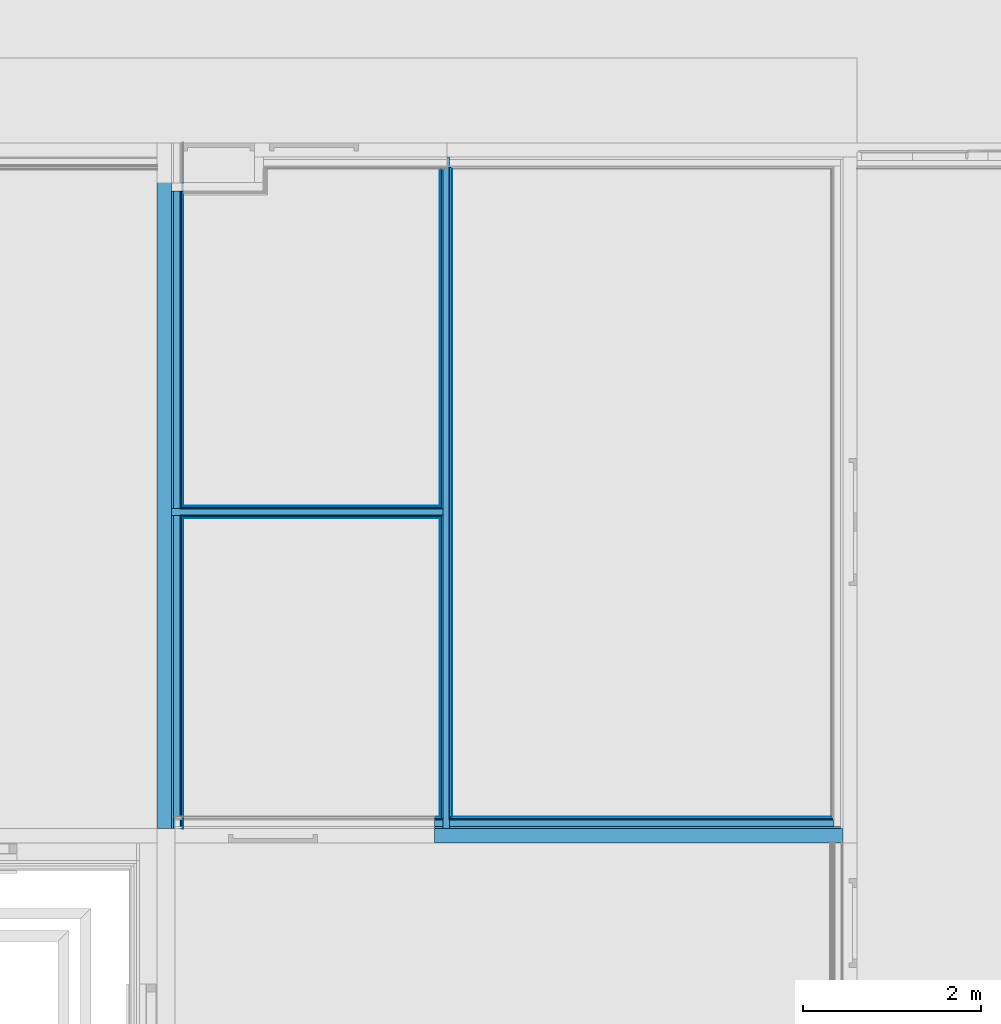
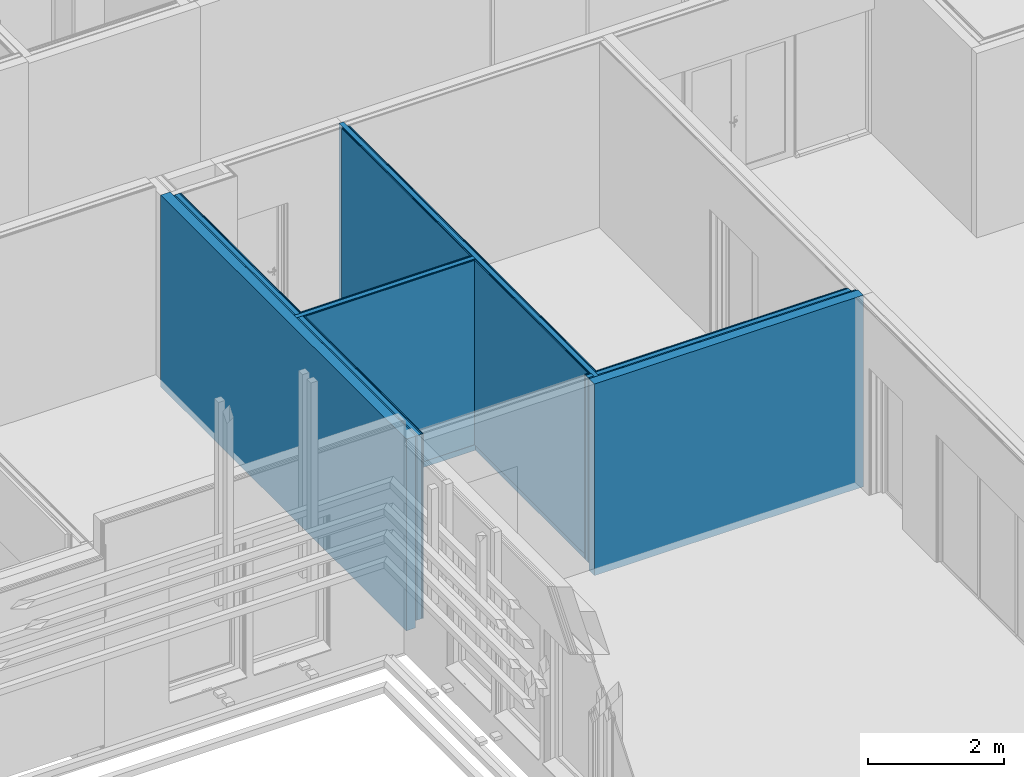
# One storey, part 87 of 139: 26 building element parts, 4 elements without a shape of their own.
"""IFC2X3 building model written with IfcOpenShell, lengths in millimetres."""

from ifc_helpers import new_model, entity, si_unit, converted_unit, derived_unit, money_unit, direction, frame, origin_with_axes, place, context, subcontext, project, spatial, faceted_brep, material, type_object, element, aggregate, save


model = new_model("IFC2X3")

# Units and contexts
model_context = context("Model", 3, precision=0.01, world=origin_with_axes(), true_north=direction((0.0, 1.0)))
body_context = subcontext(model_context, "Body", "Model", "MODEL_VIEW")
ifc_project = project(units=[si_unit("LENGTHUNIT", "METRE", prefix="MILLI"), si_unit("AREAUNIT", "SQUARE_METRE"), si_unit("VOLUMEUNIT", "CUBIC_METRE"), converted_unit("PLANEANGLEUNIT", "DEGREE", entity("IfcPlaneAngleMeasure", 0.0174532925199), si_unit("PLANEANGLEUNIT", "RADIAN"), dimensions=[0, 0, 0, 0, 0, 0, 0]), money_unit("EUR"), converted_unit("TIMEUNIT", "Year", entity("IfcTimeMeasure", 31556926.0), si_unit("TIMEUNIT", "SECOND"), dimensions=[0, 0, 1, 0, 0, 0, 0]), si_unit("MASSUNIT", "GRAM", prefix="KILO"), si_unit("THERMODYNAMICTEMPERATUREUNIT", "DEGREE_CELSIUS"), si_unit("LUMINOUSINTENSITYUNIT", "LUMEN"), si_unit("ENERGYUNIT", "JOULE", prefix="MEGA"), derived_unit("THERMALCONDUCTANCEUNIT", [(si_unit("POWERUNIT", "WATT"), 1), (si_unit("LENGTHUNIT", "METRE"), -1), (si_unit("THERMODYNAMICTEMPERATUREUNIT", "KELVIN"), -1)]), derived_unit("SPECIFICHEATCAPACITYUNIT", [(si_unit("ENERGYUNIT", "JOULE"), 1), (si_unit("MASSUNIT", "GRAM", prefix="KILO"), -1), (si_unit("THERMODYNAMICTEMPERATUREUNIT", "KELVIN"), -1)]), derived_unit("MASSDENSITYUNIT", [(si_unit("MASSUNIT", "GRAM", prefix="KILO"), 1), (si_unit("VOLUMEUNIT", "CUBIC_METRE"), -1)])], contexts=[model_context])

# Site, building, storey
site_placement = place(None, origin_with_axes())
site = spatial("IfcSite", under=ifc_project, at=site_placement, Name="Kolde pst 67a", CompositionType="ELEMENT")
building_placement = place(site_placement, origin_with_axes())
building = spatial("IfcBuilding", under=site, at=building_placement, Name="Riigigümnaasium", CompositionType="ELEMENT")
storey_placement = place(building_placement, frame((0.0, 0.0, 4600.0), z_axis=(0.0, 0.0, 1.0), x_axis=(1.0, 0.0, 0.0)))
storey = spatial("IfcBuildingStorey", under=building, at=storey_placement, Name="2. korrus", CompositionType="ELEMENT", Elevation=4600.0)

# Wall, building element parts
wall_type_1 = type_object("IfcWallType", Name="SS-MK-7,5/2_värvitud TTS sein 139", PredefinedType="NOTDEFINED")
wall_1_placement = place(storey_placement, frame((27350.0035815, 51680.0001843, -130.0), z_axis=(0.0, 0.0, 1.0), x_axis=(-1.0, 0.0, 0.0)))
wall_1 = element("IfcWall", 1, at=wall_1_placement, inside=storey, type_object=wall_type_1, Name="Sisesein")
ifc_material_1 = material(Name="_VIIMISTLUSKIHT - viimistlus vastavalt SA osale")
building_element_part_1_placement = place(wall_1_placement, origin_with_axes())
building_element_part_1 = element("IfcBuildingElementPart", 2, at=building_element_part_1_placement, material=ifc_material_1, Name="_VIIMISTLUSKIHT - viimistlus vastavalt SA osale", context=body_context, shape_type="Brep", body=[
    faceted_brep([(3018.00084737, -2.0, 3450.0), (139.0, -2.0, 3450.0), (139.0, -2.0, 130.0), (3018.00084737, -2.0, 130.0), (139.0, 0.0, 3450.0), (3018.00084737, 0.0, 3450.0), (139.0, 0.0, 130.0), (3018.00084737, 0.0, 130.0)], [[[0, 1, 2, 3]], [[4, 1, 0, 5]], [[1, 4, 6, 2]], [[3, 2, 6, 7]], [[5, 0, 3, 7]], [[4, 5, 7, 6]]]),
])
ifc_material_2 = material(Name="_PLAATMATERJAL - tuletõkkekipsplaat, Knauf Red GKF või samaväärne")
building_element_part_2_placement = place(wall_1_placement, origin_with_axes())
building_element_part_2 = element("IfcBuildingElementPart", 3, at=building_element_part_2_placement, material=ifc_material_2, Name="_PLAATMATERJAL - tuletõkkekipsplaat, Knauf Red GKF või samaväärne", context=body_context, shape_type="Brep", body=[
    faceted_brep([(3020.00084737, -17.0, 3450.0), (137.0, -17.0, 3450.0), (137.0, -17.0, 127.0), (3020.00084737, -17.0, 127.0), (137.0, -2.0, 3450.0), (3020.00084737, -2.0, 3450.0), (137.0, -2.0, 127.0), (3020.00084737, -2.0, 127.0)], [[[0, 1, 2, 3]], [[4, 1, 0, 5]], [[1, 4, 6, 2]], [[3, 2, 6, 7]], [[5, 0, 3, 7]], [[4, 5, 7, 6]]]),
])
building_element_part_3_placement = place(wall_1_placement, origin_with_axes())
building_element_part_3 = element("IfcBuildingElementPart", 4, at=building_element_part_3_placement, material=ifc_material_2, Name="_PLAATMATERJAL - tuletõkkekipsplaat, Knauf Red GKF või samaväärne", context=body_context, shape_type="Brep", body=[
    faceted_brep([(3035.00084737, -32.0, 3450.0), (122.0, -32.0, 3450.0), (122.0, -32.0, 127.0), (3035.00084737, -32.0, 127.0), (122.0, -17.0, 3450.0), (3035.00084737, -17.0, 3450.0), (122.0, -17.0, 127.0), (3035.00084737, -17.0, 127.0)], [[[0, 1, 2, 3]], [[4, 1, 0, 5]], [[1, 4, 6, 2]], [[3, 2, 6, 7]], [[5, 0, 3, 7]], [[4, 5, 7, 6]]]),
])
ifc_material_3 = material(Name="_KARKASS - metallkarkass CW 75/50, mineraalvill karkassi vahel")
building_element_part_4_placement = place(wall_1_placement, origin_with_axes())
building_element_part_4 = element("IfcBuildingElementPart", 5, at=building_element_part_4_placement, material=ifc_material_3, Name="_KARKASS - metallkarkass CW 75/50, mineraalvill karkassi vahel", context=body_context, shape_type="Brep", body=[
    faceted_brep([(3150.00084737, -107.0, 3450.0), (107.0, -107.0, 3450.0), (107.0, -107.0, 0.0), (3150.00084737, -107.0, 0.0), (107.0, -32.0, 3450.0), (3150.00084737, -32.0, 3450.0), (107.0, -32.0, 0.0), (3150.00084737, -32.0, 0.0)], [[[0, 1, 2, 3]], [[4, 1, 0, 5]], [[1, 4, 6, 2]], [[7, 3, 2, 6]], [[5, 0, 3, 7]], [[4, 5, 7, 6]]]),
])
building_element_part_5_placement = place(wall_1_placement, origin_with_axes())
building_element_part_5 = element("IfcBuildingElementPart", 6, at=building_element_part_5_placement, material=ifc_material_2, Name="_PLAATMATERJAL - tuletõkkekipsplaat, Knauf Red GKF või samaväärne", context=body_context, shape_type="Brep", body=[
    faceted_brep([(3035.00084737, -122.0, 3450.0), (122.0, -122.0, 3450.0), (122.0, -122.0, 127.0), (3035.00084737, -122.0, 127.0), (122.0, -107.0, 3450.0), (3035.00084737, -107.0, 3450.0), (122.0, -107.0, 127.0), (3035.00084737, -107.0, 127.0)], [[[0, 1, 2, 3]], [[4, 1, 0, 5]], [[1, 4, 6, 2]], [[3, 2, 6, 7]], [[5, 0, 3, 7]], [[4, 5, 7, 6]]]),
])
building_element_part_6_placement = place(wall_1_placement, origin_with_axes())
building_element_part_6 = element("IfcBuildingElementPart", 7, at=building_element_part_6_placement, material=ifc_material_2, Name="_PLAATMATERJAL - tuletõkkekipsplaat, Knauf Red GKF või samaväärne", context=body_context, shape_type="Brep", body=[
    faceted_brep([(3020.00084737, -137.0, 3450.0), (137.0, -137.0, 3450.0), (137.0, -137.0, 127.0), (3020.00084737, -137.0, 127.0), (137.0, -122.0, 3450.0), (3020.00084737, -122.0, 3450.0), (137.0, -122.0, 127.0), (3020.00084737, -122.0, 127.0)], [[[0, 1, 2, 3]], [[4, 1, 0, 5]], [[1, 4, 6, 2]], [[3, 2, 6, 7]], [[5, 0, 3, 7]], [[4, 5, 7, 6]]]),
])
building_element_part_7_placement = place(wall_1_placement, origin_with_axes())
building_element_part_7 = element("IfcBuildingElementPart", 8, at=building_element_part_7_placement, material=ifc_material_1, Name="_VIIMISTLUSKIHT - viimistlus vastavalt SA osale", context=body_context, shape_type="Brep", body=[
    faceted_brep([(3018.00084737, -139.0, 3450.0), (139.0, -139.0, 3450.0), (139.0, -139.0, 130.0), (3018.00084737, -139.0, 130.0), (139.0, -137.0, 3450.0), (3018.00084737, -137.0, 3450.0), (139.0, -137.0, 130.0), (3018.00084737, -137.0, 130.0)], [[[0, 1, 2, 3]], [[4, 1, 0, 5]], [[1, 4, 6, 2]], [[3, 2, 6, 7]], [[5, 0, 3, 7]], [[4, 5, 7, 6]]]),
])
aggregate(wall_1, [building_element_part_1, building_element_part_2, building_element_part_3, building_element_part_4, building_element_part_5, building_element_part_6, building_element_part_7])

wall_2_placement = place(storey_placement, frame((27350.0035815, 55889.973025, -130.0), z_axis=(0.0, 0.0, 1.0), x_axis=(0.0, -1.0, 0.0)))
wall_2 = element("IfcWall", 9, at=wall_2_placement, inside=storey, type_object=wall_type_1, Name="Sisesein")
building_element_part_8_placement = place(wall_2_placement, origin_with_axes())
building_element_part_8 = element("IfcBuildingElementPart", 10, at=building_element_part_8_placement, material=ifc_material_1, Name="_VIIMISTLUSKIHT - viimistlus vastavalt SA osale", context=body_context, shape_type="Brep", body=[
    faceted_brep([(291.999794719, -2.0, 3450.0), (291.999807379, 0.0, 3450.0), (291.999807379, 0.0, 130.0), (291.999794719, -2.0, 130.0), (7557.99219415, 0.0, 3450.0), (7557.99219415, -2.0, 3450.0), (7557.99219415, 0.0, 130.0), (7557.99219415, -2.0, 130.0)], [[[0, 1, 2, 3]], [[4, 1, 0, 5]], [[1, 4, 6, 2]], [[3, 2, 6, 7]], [[5, 0, 3, 7]], [[4, 5, 7, 6]]]),
])
building_element_part_9_placement = place(wall_2_placement, origin_with_axes())
building_element_part_9 = element("IfcBuildingElementPart", 11, at=building_element_part_9_placement, material=ifc_material_2, Name="_PLAATMATERJAL - tuletõkkekipsplaat, Knauf Red GKF või samaväärne", context=body_context, shape_type="Brep", body=[
    faceted_brep([(289.999699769, -17.0, 3450.0), (289.999794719, -2.0, 3450.0), (289.999794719, -2.0, 127.0), (289.999699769, -17.0, 127.0), (7559.99219415, -2.0, 3450.0), (7559.99219415, -17.0, 3450.0), (7559.99219415, -2.0, 127.0), (7559.99219415, -17.0, 127.0)], [[[0, 1, 2, 3]], [[4, 1, 0, 5]], [[1, 4, 6, 2]], [[3, 2, 6, 7]], [[5, 0, 3, 7]], [[4, 5, 7, 6]]]),
])
building_element_part_10_placement = place(wall_2_placement, origin_with_axes())
building_element_part_10 = element("IfcBuildingElementPart", 12, at=building_element_part_10_placement, material=ifc_material_2, Name="_PLAATMATERJAL - tuletõkkekipsplaat, Knauf Red GKF või samaväärne", context=body_context, shape_type="Brep", body=[
    faceted_brep([(274.999604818, -32.0, 3450.0), (274.999699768, -17.0, 3450.0), (274.999699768, -17.0, 127.0), (274.999604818, -32.0, 127.0), (7574.99219415, -17.0, 3450.0), (7574.99219415, -32.0, 3450.0), (7574.99219415, -17.0, 127.0), (7574.99219415, -32.0, 127.0)], [[[0, 1, 2, 3]], [[4, 1, 0, 5]], [[1, 4, 6, 2]], [[3, 2, 6, 7]], [[5, 0, 3, 7]], [[4, 5, 7, 6]]]),
])
building_element_part_11_placement = place(wall_2_placement, origin_with_axes())
building_element_part_11 = element("IfcBuildingElementPart", 13, at=building_element_part_11_placement, material=ifc_material_3, Name="_KARKASS - metallkarkass CW 75/50, mineraalvill karkassi vahel", context=body_context, shape_type="Brep", body=[
    faceted_brep([(159.999130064, -107.0, 3450.0), (159.999604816, -32.0, 3450.0), (159.999604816, -32.0, 0.0), (159.999130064, -107.0, 0.0), (7689.99219415, -32.0, 3450.0), (7689.99219415, -107.0, 3450.0), (7689.99219415, -32.0, 0.0), (7689.99219415, -107.0, 0.0)], [[[0, 1, 2, 3]], [[4, 1, 0, 5]], [[1, 4, 6, 2]], [[6, 7, 3, 2]], [[5, 0, 3, 7]], [[4, 5, 7, 6]]]),
])
building_element_part_12_placement = place(wall_2_placement, origin_with_axes())
building_element_part_12 = element("IfcBuildingElementPart", 14, at=building_element_part_12_placement, material=ifc_material_2, Name="_PLAATMATERJAL - tuletõkkekipsplaat, Knauf Red GKF või samaväärne", context=body_context, shape_type="Brep", body=[
    faceted_brep([(4177.97284061, -122.0, 3450.0), (4177.97284061, -107.0, 3450.0), (4177.97284061, -107.0, 127.0), (4177.97284061, -122.0, 127.0), (7574.99219415, -107.0, 3450.0), (7574.99219415, -122.0, 3450.0), (7574.99219415, -107.0, 127.0), (7574.99219415, -122.0, 127.0)], [[[0, 1, 2, 3]], [[4, 1, 0, 5]], [[1, 4, 6, 2]], [[3, 2, 6, 7]], [[5, 0, 3, 7]], [[4, 5, 7, 6]]]),
    faceted_brep([(274.999035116, -122.0, 3450.0), (274.999130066, -107.0, 3450.0), (274.999130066, -107.0, 127.0), (274.999035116, -122.0, 127.0), (4102.97284061, -107.0, 3450.0), (4102.97284061, -122.0, 3450.0), (4102.97284061, -107.0, 127.0), (4102.97284061, -122.0, 127.0)], [[[0, 1, 2, 3]], [[4, 1, 0, 5]], [[1, 4, 6, 2]], [[3, 2, 6, 7]], [[5, 0, 3, 7]], [[4, 5, 7, 6]]]),
])
building_element_part_13_placement = place(wall_2_placement, origin_with_axes())
building_element_part_13 = element("IfcBuildingElementPart", 15, at=building_element_part_13_placement, material=ifc_material_2, Name="_PLAATMATERJAL - tuletõkkekipsplaat, Knauf Red GKF või samaväärne", context=body_context, shape_type="Brep", body=[
    faceted_brep([(4192.97284061, -137.0, 3450.0), (4192.97284061, -122.0, 3450.0), (4192.97284061, -122.0, 127.0), (4192.97284061, -137.0, 127.0), (7559.99219415, -122.0, 3450.0), (7559.99219415, -137.0, 3450.0), (7559.99219415, -122.0, 127.0), (7559.99219415, -137.0, 127.0)], [[[0, 1, 2, 3]], [[4, 1, 0, 5]], [[1, 4, 6, 2]], [[3, 2, 6, 7]], [[5, 0, 3, 7]], [[4, 5, 7, 6]]]),
    faceted_brep([(289.998940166, -137.0, 3450.0), (289.999035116, -122.0, 3450.0), (289.999035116, -122.0, 127.0), (289.998940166, -137.0, 127.0), (4087.97284061, -122.0, 3450.0), (4087.97284061, -137.0, 3450.0), (4087.97284061, -122.0, 127.0), (4087.97284061, -137.0, 127.0)], [[[0, 1, 2, 3]], [[4, 1, 0, 5]], [[1, 4, 6, 2]], [[3, 2, 6, 7]], [[5, 0, 3, 7]], [[4, 5, 7, 6]]]),
])
building_element_part_14_placement = place(wall_2_placement, origin_with_axes())
building_element_part_14 = element("IfcBuildingElementPart", 16, at=building_element_part_14_placement, material=ifc_material_1, Name="_VIIMISTLUSKIHT - viimistlus vastavalt SA osale", context=body_context, shape_type="Brep", body=[
    faceted_brep([(4207.97284061, -139.0, 3450.0), (4207.97284061, -137.0, 3450.0), (4207.97284061, -137.0, 130.0), (4207.97284061, -139.0, 130.0), (7557.99219415, -137.0, 3450.0), (7557.99219415, -139.0, 3450.0), (7557.99219415, -137.0, 130.0), (7557.99219415, -139.0, 130.0)], [[[0, 1, 2, 3]], [[4, 1, 0, 5]], [[1, 4, 6, 2]], [[3, 2, 6, 7]], [[5, 0, 3, 7]], [[4, 5, 7, 6]]]),
    faceted_brep([(291.998927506, -139.0, 3450.0), (291.998940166, -137.0, 3450.0), (291.998940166, -137.0, 130.0), (291.998927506, -139.0, 130.0), (4072.97284061, -137.0, 3450.0), (4072.97284061, -139.0, 3450.0), (4072.97284061, -137.0, 130.0), (4072.97284061, -139.0, 130.0)], [[[0, 1, 2, 3]], [[4, 1, 0, 5]], [[1, 4, 6, 2]], [[3, 2, 6, 7]], [[5, 0, 3, 7]], [[4, 5, 7, 6]]]),
])
aggregate(wall_2, [building_element_part_8, building_element_part_9, building_element_part_10, building_element_part_11, building_element_part_12, building_element_part_13, building_element_part_14])

wall_type_2 = type_object("IfcWallType", Name="SS-CLT-16/5_vill75+värv 52 dB 292", PredefinedType="NOTDEFINED")
wall_3_placement = place(storey_placement, frame((27150.0035815, 48039.9808308, -150.0), z_axis=(0.0, 0.0, 1.0), x_axis=(1.0, 0.0, 0.0)))
wall_3 = element("IfcWall", 17, at=wall_3_placement, inside=storey, type_object=wall_type_2, Name="Sisesein")
building_element_part_15_placement = place(wall_3_placement, origin_with_axes())
building_element_part_15 = element("IfcBuildingElementPart", 18, at=building_element_part_15_placement, material=ifc_material_1, Name="_VIIMISTLUSKIHT - viimistlus vastavalt SA osale", context=body_context, shape_type="Brep", body=[
    faceted_brep([(0.0, 292.0, 3470.0), (63.0, 292.0, 3470.0), (63.0, 292.0, 150.0), (0.0, 292.0, 150.0), (63.0, 290.000000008, 3470.0), (0.0, 290.0, 3470.0), (63.0, 290.00000132, 150.0), (0.0, 290.0, 150.0)], [[[0, 1, 2, 3]], [[4, 1, 0, 5]], [[1, 4, 6, 2]], [[3, 2, 6, 7]], [[5, 0, 3, 7]], [[4, 5, 7, 6]]]),
    faceted_brep([(198.0, 292.0, 3470.0), (4447.99919561, 292.0, 3470.0), (4447.99919561, 292.0, 150.0), (198.0, 292.0, 150.0), (4447.99919561, 290.000000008, 3470.0), (198.0, 290.000000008, 3470.0), (4447.99919561, 290.00000132, 150.0), (198.0, 290.00000132, 150.0)], [[[0, 1, 2, 3]], [[4, 1, 0, 5]], [[1, 4, 6, 2]], [[3, 2, 6, 7]], [[5, 0, 3, 7]], [[4, 5, 7, 6]]]),
])
building_element_part_16_placement = place(wall_3_placement, origin_with_axes())
building_element_part_16 = element("IfcBuildingElementPart", 19, at=building_element_part_16_placement, material=ifc_material_2, Name="_PLAATMATERJAL - tuletõkkekipsplaat, Knauf Red GKF või samaväärne", context=body_context, shape_type="Brep", body=[
    faceted_brep([(0.0, 290.0, 3470.0), (78.0, 290.000000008, 3470.0), (78.0, 290.000001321, 147.0), (0.0, 290.0, 147.0), (78.0, 275.0, 3470.0), (0.0, 275.0, 3470.0), (78.0, 275.0, 147.0), (0.0, 275.0, 147.0)], [[[0, 1, 2, 3]], [[4, 1, 0, 5]], [[1, 4, 6, 2]], [[3, 2, 6, 7]], [[5, 0, 3, 7]], [[4, 5, 7, 6]]]),
    faceted_brep([(183.0, 290.000000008, 3470.0), (4449.99915321, 290.000000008, 3470.0), (4449.99915321, 290.000001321, 147.0), (183.0, 290.000001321, 147.0), (4449.99915313, 275.0, 3470.0), (183.0, 275.0, 3470.0), (4449.99915313, 275.0, 147.0), (183.0, 275.0, 147.0)], [[[0, 1, 2, 3]], [[4, 1, 0, 5]], [[1, 4, 6, 2]], [[3, 2, 6, 7]], [[5, 0, 3, 7]], [[4, 5, 7, 6]]]),
])
building_element_part_17_placement = place(wall_3_placement, origin_with_axes())
building_element_part_17 = element("IfcBuildingElementPart", 20, at=building_element_part_17_placement, material=ifc_material_2, Name="_PLAATMATERJAL - tuletõkkekipsplaat, Knauf Red GKF või samaväärne", context=body_context, shape_type="Brep", body=[
    faceted_brep([(0.0, 275.0, 3470.0), (93.0, 275.0, 3470.0), (93.0, 275.0, 147.0), (0.0, 275.0, 147.0), (93.0, 260.000000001, 3470.0), (0.0, 260.0, 3470.0), (93.0, 260.000000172, 147.0), (0.0, 260.0, 147.0)], [[[0, 1, 2, 3]], [[4, 1, 0, 5]], [[1, 4, 6, 2]], [[3, 2, 6, 7]], [[5, 0, 3, 7]], [[4, 5, 7, 6]]]),
    faceted_brep([(168.0, 275.0, 3470.0), (4464.99915313, 275.0, 3470.0), (4464.99915313, 275.0, 147.0), (168.0, 275.0, 147.0), (4464.99915305, 260.000000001, 3470.0), (168.0, 260.000000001, 3470.0), (4464.99915305, 260.000000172, 147.0), (168.0, 260.000000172, 147.0)], [[[0, 1, 2, 3]], [[4, 1, 0, 5]], [[1, 4, 6, 2]], [[3, 2, 6, 7]], [[5, 0, 3, 7]], [[4, 5, 7, 6]]]),
])
ifc_material_4 = material(Name="_KARKASS - metallkarkass CW 75/50/06 ja UW 75/40/06, samm 600, vahel mineraalvill, helineeldetegur αw = 1.0,  ISOVER ACOUSTIC 75mm või samaväärne")
building_element_part_18_placement = place(wall_3_placement, origin_with_axes())
building_element_part_18 = element("IfcBuildingElementPart", 21, at=building_element_part_18_placement, material=ifc_material_4, Name="_KARKASS - metallkarkass CW 75/50/06 ja UW 75/40/06, samm 600, vahel mineraalvill, helineeldetegur αw = 1.0,  ISOVER ACOUSTIC 75mm või samaväärne", context=body_context, shape_type="Brep", body=[
    faceted_brep([(0.0, 260.0, 3470.0), (93.0, 260.000000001, 3470.0), (93.0, 260.000000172, 147.0), (0.0, 260.0, 147.0), (93.0, 185.000000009, 3470.0), (0.0, 185.0, 3470.0), (93.0, 185.000001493, 147.0), (0.0, 185.0, 147.0)], [[[0, 1, 2, 3]], [[4, 1, 0, 5]], [[1, 4, 6, 2]], [[3, 2, 6, 7]], [[5, 0, 3, 7]], [[4, 5, 7, 6]]]),
    faceted_brep([(168.0, 260.000000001, 3470.0), (4479.99919561, 260.000000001, 3470.0), (4479.99919561, 260.000000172, 147.0), (168.0, 260.000000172, 147.0), (4479.99919561, 185.000000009, 3470.0), (168.0, 185.000000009, 3470.0), (4479.99919561, 185.000001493, 147.0), (168.0, 185.000001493, 147.0)], [[[0, 1, 2, 3]], [[4, 1, 0, 5]], [[1, 4, 6, 2]], [[3, 2, 6, 7]], [[5, 0, 3, 7]], [[4, 5, 7, 6]]]),
])
ifc_material_5 = material(Name="_ÕHKVAHE")
building_element_part_19_placement = place(wall_3_placement, origin_with_axes())
building_element_part_19 = element("IfcBuildingElementPart", 22, at=building_element_part_19_placement, material=ifc_material_5, Name="_ÕHKVAHE", context=body_context, shape_type="Brep", body=[
    faceted_brep([(0.0, 185.0, 3470.0), (93.0, 185.000000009, 3470.0), (93.0, 185.000001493, 147.0), (0.0, 185.0, 147.0), (93.0, 159.999999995, 3470.0), (0.0, 160.0, 3470.0), (93.0, 159.999999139, 147.0), (0.0, 160.0, 147.0)], [[[0, 1, 2, 3]], [[4, 1, 0, 5]], [[1, 4, 6, 2]], [[3, 2, 6, 7]], [[5, 0, 3, 7]], [[4, 5, 7, 6]]]),
    faceted_brep([(168.0, 185.000000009, 3470.0), (4554.99919561, 185.000000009, 3470.0), (4554.99919561, 185.000001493, 147.0), (168.0, 185.000001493, 147.0), (4554.99919561, 159.999999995, 3470.0), (168.0, 159.999999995, 3470.0), (4554.99919561, 159.999999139, 147.0), (168.0, 159.999999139, 147.0)], [[[0, 1, 2, 3]], [[4, 1, 0, 5]], [[1, 4, 6, 2]], [[3, 2, 6, 7]], [[5, 0, 3, 7]], [[4, 5, 7, 6]]]),
])
ifc_material_6 = material(Name="_KANDETARIND - CLT ristkihtliimpuit vastavalt EK osale, CLT paigaldusvuugid teibitakse ROTHOBLAAS teibiga")
building_element_part_20_placement = place(wall_3_placement, origin_with_axes())
building_element_part_20 = element("IfcBuildingElementPart", 23, at=building_element_part_20_placement, material=ifc_material_6, Name="_KANDETARIND - CLT ristkihtliimpuit vastavalt EK osale, CLT paigaldusvuugid teibitakse ROTHOBLAAS teibiga", context=body_context, shape_type="Brep", body=[
    faceted_brep([(0.0, 160.0, 3470.0), (4579.99915248, 159.999999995, 3470.0), (4579.99915248, 159.999999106, 20.0), (0.0, 160.0, 20.0), (4579.99915159, 0.0, 3470.0), (0.0, 0.0, 3470.0), (4579.99915159, 0.0, 20.0), (0.0, 0.0, 20.0)], [[[0, 1, 2, 3]], [[4, 1, 0, 5]], [[1, 4, 6, 2]], [[3, 2, 6, 7]], [[5, 0, 3, 7]], [[4, 5, 7, 6]]]),
])
aggregate(wall_3, [building_element_part_15, building_element_part_16, building_element_part_17, building_element_part_18, building_element_part_19, building_element_part_20])

wall_4_placement = place(storey_placement, frame((24040.0027342, 55447.9923216, -130.0), z_axis=(0.0, 0.0, 1.0), x_axis=(0.0, -1.0, 0.0)))
wall_4 = element("IfcWall", 24, at=wall_4_placement, inside=storey, type_object=wall_type_2, Name="Sisesein")
building_element_part_21_placement = place(wall_4_placement, origin_with_axes())
building_element_part_21 = element("IfcBuildingElementPart", 25, at=building_element_part_21_placement, material=ifc_material_1, Name="_VIIMISTLUSKIHT - viimistlus vastavalt SA osale", context=body_context, shape_type="Brep", body=[
    faceted_brep([(125.0, 290.0, 3450.0), (125.0, 292.0, 3450.0), (125.0, 292.0, 130.0), (125.0, 290.0, 130.0), (3630.99213725, 292.0, 3450.0), (3630.99213725, 290.0, 3450.0), (3630.99213725, 292.0, 130.0), (3630.99213725, 290.0, 130.0)], [[[0, 1, 2, 3]], [[4, 1, 0, 5]], [[1, 4, 6, 2]], [[3, 2, 6, 7]], [[5, 0, 3, 7]], [[4, 5, 7, 6]]]),
    faceted_brep([(3765.99213725, 290.0, 3450.0), (3765.99213725, 292.0, 3450.0), (3765.99213725, 292.0, 130.0), (3765.99213725, 290.0, 130.0), (7248.01149079, 292.0, 3450.0), (7248.01149079, 290.0, 3450.0), (7248.01149079, 292.0, 130.0), (7248.01149079, 290.0, 130.0)], [[[0, 1, 2, 3]], [[4, 1, 0, 5]], [[1, 4, 6, 2]], [[3, 2, 6, 7]], [[5, 0, 3, 7]], [[4, 5, 7, 6]]]),
])
building_element_part_22_placement = place(wall_4_placement, origin_with_axes())
building_element_part_22 = element("IfcBuildingElementPart", 26, at=building_element_part_22_placement, material=ifc_material_2, Name="_PLAATMATERJAL - tuletõkkekipsplaat, Knauf Red GKF või samaväärne", context=body_context, shape_type="Brep", body=[
    faceted_brep([(100.0, 275.0, 3450.0), (100.0, 290.0, 3450.0), (100.0, 290.0, 130.0), (100.0, 275.0, 130.0), (3645.99213725, 290.0, 3450.0), (3645.99213725, 275.0, 3450.0), (3645.99213725, 290.0, 127.0), (0.0, 290.0, 127.0), (0.0, 290.0, 130.0), (0.0, 275.0, 130.0), (0.0, 275.0, 127.0), (3645.99213725, 275.0, 127.0)], [[[0, 1, 2, 3]], [[4, 1, 0, 5]], [[1, 4, 6, 7, 8, 2]], [[3, 2, 8, 9]], [[5, 0, 3, 9, 10, 11]], [[4, 5, 11, 6]], [[10, 7, 6, 11]], [[7, 10, 9, 8]]]),
    faceted_brep([(3750.99213725, 275.0, 3450.0), (3750.99213725, 290.0, 3450.0), (3750.99213725, 290.0, 127.0), (3750.99213725, 275.0, 127.0), (7248.01149079, 290.0, 3450.0), (7248.01149079, 275.0, 3450.0), (7248.01149079, 290.0, 127.0), (7248.01149079, 275.0, 127.0)], [[[0, 1, 2, 3]], [[4, 1, 0, 5]], [[1, 4, 6, 2]], [[3, 2, 6, 7]], [[5, 0, 3, 7]], [[4, 5, 7, 6]]]),
])
building_element_part_23_placement = place(wall_4_placement, origin_with_axes())
building_element_part_23 = element("IfcBuildingElementPart", 27, at=building_element_part_23_placement, material=ifc_material_2, Name="_PLAATMATERJAL - tuletõkkekipsplaat, Knauf Red GKF või samaväärne", context=body_context, shape_type="Brep", body=[
    faceted_brep([(100.0, 260.0, 3450.0), (100.0, 275.0, 3450.0), (100.0, 275.0, 130.0), (100.0, 260.0, 130.0), (3660.99213725, 275.0, 3450.0), (3660.99213725, 260.0, 3450.0), (3660.99213725, 275.0, 127.0), (0.0, 275.0, 127.0), (0.0, 275.0, 130.0), (0.0, 260.0, 130.0), (0.0, 260.0, 127.0), (3660.99213725, 260.0, 127.0)], [[[0, 1, 2, 3]], [[4, 1, 0, 5]], [[1, 4, 6, 7, 8, 2]], [[3, 2, 8, 9]], [[5, 0, 3, 9, 10, 11]], [[4, 5, 11, 6]], [[10, 7, 6, 11]], [[7, 10, 9, 8]]]),
    faceted_brep([(3735.99213725, 260.0, 3450.0), (3735.99213725, 275.0, 3450.0), (3735.99213725, 275.0, 127.0), (3735.99213725, 260.0, 127.0), (7248.01149079, 275.0, 3450.0), (7248.01149079, 260.0, 3450.0), (7248.01149079, 275.0, 127.0), (7248.01149079, 260.0, 127.0)], [[[0, 1, 2, 3]], [[4, 1, 0, 5]], [[1, 4, 6, 2]], [[3, 2, 6, 7]], [[5, 0, 3, 7]], [[4, 5, 7, 6]]]),
])
building_element_part_24_placement = place(wall_4_placement, origin_with_axes())
building_element_part_24 = element("IfcBuildingElementPart", 28, at=building_element_part_24_placement, material=ifc_material_4, Name="_KARKASS - metallkarkass CW 75/50/06 ja UW 75/40/06, samm 600, vahel mineraalvill, helineeldetegur αw = 1.0,  ISOVER ACOUSTIC 75mm või samaväärne", context=body_context, shape_type="Brep", body=[
    faceted_brep([(100.0, 185.0, 3450.0), (100.0, 260.0, 3450.0), (100.0, 260.0, 130.0), (100.0, 185.0, 130.0), (3660.99213725, 260.0, 3450.0), (3660.99213725, 185.0, 3450.0), (3660.99213725, 260.0, 127.0), (0.0, 260.0, 127.0), (0.0, 260.0, 130.0), (0.0, 185.0, 130.0), (0.0, 185.0, 127.0), (3660.99213725, 185.0, 127.0)], [[[0, 1, 2, 3]], [[4, 1, 0, 5]], [[1, 4, 6, 7, 8, 2]], [[3, 2, 8, 9]], [[5, 0, 3, 9, 10, 11]], [[4, 5, 11, 6]], [[10, 7, 6, 11]], [[7, 10, 9, 8]]]),
    faceted_brep([(3735.99213725, 185.0, 3450.0), (3735.99213725, 260.0, 3450.0), (3735.99213725, 260.0, 127.0), (3735.99213725, 185.0, 127.0), (7248.01149079, 260.0, 3450.0), (7248.01149079, 185.0, 3450.0), (7248.01149079, 260.0, 127.0), (7248.01149079, 185.0, 127.0)], [[[0, 1, 2, 3]], [[4, 1, 0, 5]], [[1, 4, 6, 2]], [[3, 2, 6, 7]], [[5, 0, 3, 7]], [[4, 5, 7, 6]]]),
])
building_element_part_25_placement = place(wall_4_placement, origin_with_axes())
building_element_part_25 = element("IfcBuildingElementPart", 29, at=building_element_part_25_placement, material=ifc_material_5, Name="_ÕHKVAHE", context=body_context, shape_type="Brep", body=[
    faceted_brep([(100.0, 160.0, 3450.0), (100.0, 185.0, 3450.0), (100.0, 185.0, 130.0), (100.0, 160.0, 130.0), (3660.99213725, 185.0, 3450.0), (3660.99213725, 160.0, 3450.0), (3660.99213725, 185.0, 127.0), (0.0, 185.0, 127.0), (0.0, 185.0, 130.0), (0.0, 160.0, 130.0), (0.0, 160.0, 127.0), (3660.99213725, 160.0, 127.0)], [[[0, 1, 2, 3]], [[4, 1, 0, 5]], [[1, 4, 6, 7, 8, 2]], [[3, 2, 8, 9]], [[5, 0, 3, 9, 10, 11]], [[4, 5, 11, 6]], [[10, 7, 6, 11]], [[7, 10, 9, 8]]]),
    faceted_brep([(3735.99213725, 160.0, 3450.0), (3735.99213725, 185.0, 3450.0), (3735.99213725, 185.0, 127.0), (3735.99213725, 160.0, 127.0), (7248.01149079, 185.0, 3450.0), (7248.01149079, 160.0, 3450.0), (7248.01149079, 185.0, 127.0), (7248.01149079, 160.0, 127.0)], [[[0, 1, 2, 3]], [[4, 1, 0, 5]], [[1, 4, 6, 2]], [[3, 2, 6, 7]], [[5, 0, 3, 7]], [[4, 5, 7, 6]]]),
])
building_element_part_26_placement = place(wall_4_placement, origin_with_axes())
building_element_part_26 = element("IfcBuildingElementPart", 30, at=building_element_part_26_placement, material=ifc_material_6, Name="_KANDETARIND - CLT ristkihtliimpuit vastavalt EK osale, CLT paigaldusvuugid teibitakse ROTHOBLAAS teibiga", context=body_context, shape_type="Brep", body=[
    faceted_brep([(0.0, 0.0, 3450.0), (0.0, 160.0, 3450.0), (0.0, 160.0, 0.0), (0.0, 0.0, 0.0), (7248.01149079, 160.0, 3450.0), (7248.01149079, 0.0, 3450.0), (7248.01149079, 160.0, 0.0), (7248.01149079, 0.0, 0.0)], [[[0, 1, 2, 3]], [[4, 1, 0, 5]], [[1, 4, 6, 2]], [[2, 6, 7, 3]], [[5, 0, 3, 7]], [[4, 5, 7, 6]]]),
])
aggregate(wall_4, [building_element_part_21, building_element_part_22, building_element_part_23, building_element_part_24, building_element_part_25, building_element_part_26])

save(model, "model.ifc")
